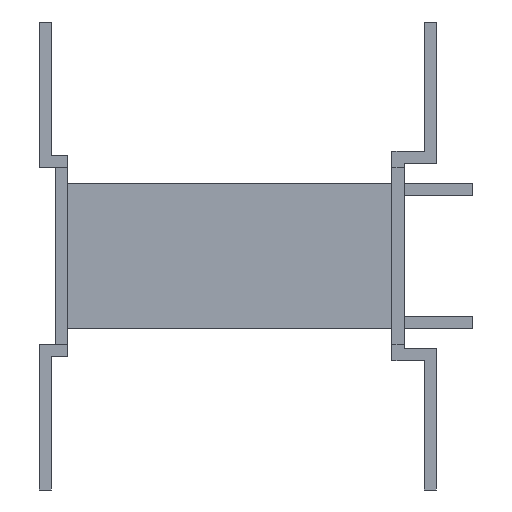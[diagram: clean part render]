
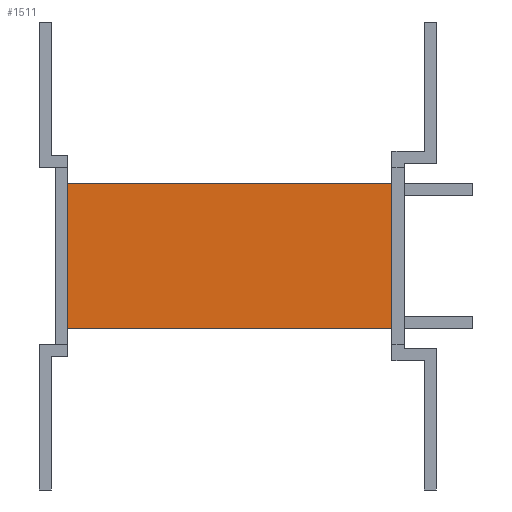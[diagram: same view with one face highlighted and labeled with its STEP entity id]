
A CAD part, front view. The second image highlights one B-rep face of the part: STEP entity #1511.
In plain terms, the highlighted planar face has unit normal (0, -1, 0).
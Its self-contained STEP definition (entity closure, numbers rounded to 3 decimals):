
#209=FACE_OUTER_BOUND('',#322,.T.);
#322=EDGE_LOOP('',(#1374,#1375,#1376,#1377));
#404=LINE('',#2224,#560);
#480=LINE('',#2460,#636);
#483=LINE('',#2465,#639);
#484=LINE('',#2467,#640);
#560=VECTOR('',#1773,10.);
#636=VECTOR('',#2041,10.);
#639=VECTOR('',#2046,10.);
#640=VECTOR('',#2049,10.);
#710=VERTEX_POINT('',#2221);
#711=VERTEX_POINT('',#2223);
#775=VERTEX_POINT('',#2459);
#776=VERTEX_POINT('',#2463);
#860=EDGE_CURVE('',#711,#710,#404,.T.);
#978=EDGE_CURVE('',#711,#775,#480,.T.);
#981=EDGE_CURVE('',#710,#776,#483,.T.);
#982=EDGE_CURVE('',#775,#776,#484,.T.);
#1374=ORIENTED_EDGE('',*,*,#860,.T.);
#1375=ORIENTED_EDGE('',*,*,#981,.T.);
#1376=ORIENTED_EDGE('',*,*,#982,.F.);
#1377=ORIENTED_EDGE('',*,*,#978,.F.);
#1440=PLANE('',#1647);
#1511=ADVANCED_FACE('',(#209),#1440,.F.);
#1647=AXIS2_PLACEMENT_3D('',#2466,#2047,#2048);
#1773=DIRECTION('',(0.,0.,1.));
#2041=DIRECTION('',(-1.,0.,0.));
#2046=DIRECTION('',(-1.,0.,0.));
#2047=DIRECTION('center_axis',(0.,1.,0.));
#2048=DIRECTION('ref_axis',(1.,0.,0.));
#2049=DIRECTION('',(0.,0.,1.));
#2221=CARTESIAN_POINT('',(40.589,40.597,19.));
#2223=CARTESIAN_POINT('',(40.589,40.597,1.));
#2224=CARTESIAN_POINT('',(40.589,40.597,1.));
#2459=CARTESIAN_POINT('',(0.389,40.597,1.));
#2460=CARTESIAN_POINT('',(21.389,40.597,1.));
#2463=CARTESIAN_POINT('',(0.389,40.597,19.));
#2465=CARTESIAN_POINT('',(21.389,40.597,19.));
#2466=CARTESIAN_POINT('Origin',(21.389,40.597,10.));
#2467=CARTESIAN_POINT('',(0.389,40.597,10.));
